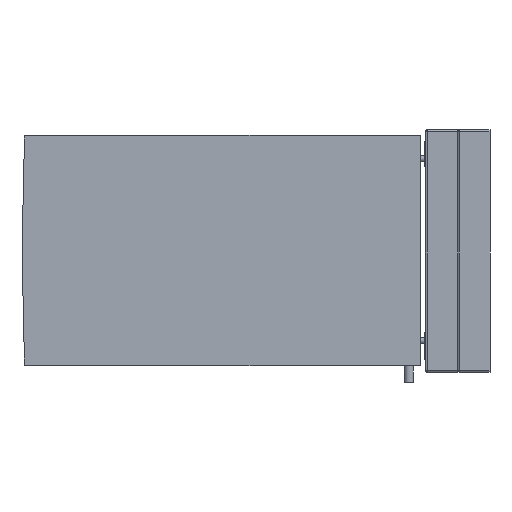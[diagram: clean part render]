
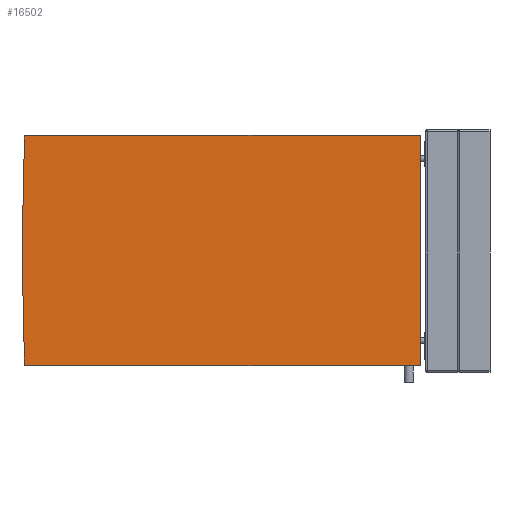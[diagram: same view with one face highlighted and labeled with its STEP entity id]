
A CAD part, left-side view. The second image highlights one B-rep face of the part: STEP entity #16502.
In plain terms, the highlighted planar face has unit normal (-1, 0, 0).
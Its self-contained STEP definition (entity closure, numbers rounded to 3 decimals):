
#388 = VERTEX_POINT ( 'NONE', #5014 ) ;
#630 = EDGE_CURVE ( 'NONE', #2542, #6149, #23395, .T. ) ;
#1161 = CARTESIAN_POINT ( 'NONE',  ( -575., 1225., 354.642 ) ) ;
#1855 = DIRECTION ( 'NONE',  ( 1., 0., 0. ) ) ;
#2100 = VERTEX_POINT ( 'NONE', #21401 ) ;
#2110 = DIRECTION ( 'NONE',  ( 0., 0., 1. ) ) ;
#2542 = VERTEX_POINT ( 'NONE', #3109 ) ;
#3109 = CARTESIAN_POINT ( 'NONE',  ( -575., 2., 357.5 ) ) ;
#3222 = ORIENTED_EDGE ( 'NONE', *, *, #23396, .F. ) ;
#4051 = CARTESIAN_POINT ( 'NONE',  ( -575., 1222.101, -354.578 ) ) ;
#4186 = ORIENTED_EDGE ( 'NONE', *, *, #16775, .F. ) ;
#4388 = ORIENTED_EDGE ( 'NONE', *, *, #21826, .F. ) ;
#4405 = VECTOR ( 'NONE', #12053, 1000. ) ;
#4421 = VERTEX_POINT ( 'NONE', #9675 ) ;
#5014 = CARTESIAN_POINT ( 'NONE',  ( -575., 1222.101, -357.478 ) ) ;
#5181 = DIRECTION ( 'NONE',  ( -1., 0., 0. ) ) ;
#5242 = CIRCLE ( 'NONE', #21650, 2.9 ) ;
#5437 = EDGE_CURVE ( 'NONE', #23100, #20217, #21280, .T. ) ;
#5476 = PLANE ( 'NONE',  #18090 ) ;
#6149 = VERTEX_POINT ( 'NONE', #10757 ) ;
#6822 = DIRECTION ( 'NONE',  ( 0., 0., 1. ) ) ;
#6911 = LINE ( 'NONE', #17807, #8693 ) ;
#7659 = FACE_OUTER_BOUND ( 'NONE', #28041, .T. ) ;
#7933 = DIRECTION ( 'NONE',  ( 0., -0.022, 1. ) ) ;
#8187 = CARTESIAN_POINT ( 'NONE',  ( -575., 1222.101, 357.478 ) ) ;
#8590 = EDGE_CURVE ( 'NONE', #2100, #11295, #11699, .T. ) ;
#8605 = DIRECTION ( 'NONE',  ( 1., 0., 0. ) ) ;
#8693 = VECTOR ( 'NONE', #26439, 1000. ) ;
#8848 = CARTESIAN_POINT ( 'NONE',  ( -575., 1225., -354.642 ) ) ;
#9071 = ORIENTED_EDGE ( 'NONE', *, *, #630, .F. ) ;
#9601 = DIRECTION ( 'NONE',  ( 0., 0., 1. ) ) ;
#9675 = CARTESIAN_POINT ( 'NONE',  ( -575., 1222.101, 357.478 ) ) ;
#10407 = DIRECTION ( 'NONE',  ( 0., 0., 1. ) ) ;
#10568 = EDGE_CURVE ( 'NONE', #20217, #4421, #5242, .T. ) ;
#10757 = CARTESIAN_POINT ( 'NONE',  ( -575., 0., 355.5 ) ) ;
#10802 = DIRECTION ( 'NONE',  ( 1., 0., 0. ) ) ;
#11142 = CARTESIAN_POINT ( 'NONE',  ( -575., 1222.101, 354.578 ) ) ;
#11295 = VERTEX_POINT ( 'NONE', #18873 ) ;
#11699 = CIRCLE ( 'NONE', #21958, 2. ) ;
#11925 = EDGE_CURVE ( 'NONE', #388, #28431, #15942, .T. ) ;
#12053 = DIRECTION ( 'NONE',  ( 0., 1., 0. ) ) ;
#12840 = CARTESIAN_POINT ( 'NONE',  ( -575., 2., 355.5 ) ) ;
#13239 = ORIENTED_EDGE ( 'NONE', *, *, #10568, .F. ) ;
#13607 = CARTESIAN_POINT ( 'NONE',  ( -575., 2., -355.5 ) ) ;
#15942 = CIRCLE ( 'NONE', #19649, 2.9 ) ;
#16251 = CARTESIAN_POINT ( 'NONE',  ( -575., 1232.738, 0. ) ) ;
#16502 = ADVANCED_FACE ( 'NONE', ( #7659 ), #5476, .T. ) ;
#16775 = EDGE_CURVE ( 'NONE', #28431, #23100, #6911, .T. ) ;
#16999 = ORIENTED_EDGE ( 'NONE', *, *, #8590, .F. ) ;
#17021 = ORIENTED_EDGE ( 'NONE', *, *, #11925, .F. ) ;
#17807 = CARTESIAN_POINT ( 'NONE',  ( -575., 1232.738, 0. ) ) ;
#18090 = AXIS2_PLACEMENT_3D ( 'NONE', #18710, #5181, #9601 ) ;
#18600 = VECTOR ( 'NONE', #18924, 1000. ) ;
#18710 = CARTESIAN_POINT ( 'NONE',  ( -575., 0., 0. ) ) ;
#18873 = CARTESIAN_POINT ( 'NONE',  ( -575., 2., -357.5 ) ) ;
#18924 = DIRECTION ( 'NONE',  ( 0., -1., 0. ) ) ;
#19649 = AXIS2_PLACEMENT_3D ( 'NONE', #4051, #28437, #10407 ) ;
#19766 = DIRECTION ( 'NONE',  ( 0., 0., 1. ) ) ;
#20217 = VERTEX_POINT ( 'NONE', #25445 ) ;
#20444 = DIRECTION ( 'NONE',  ( 0., 0., -1. ) ) ;
#20522 = EDGE_CURVE ( 'NONE', #6149, #2100, #24844, .T. ) ;
#20686 = LINE ( 'NONE', #25510, #4405 ) ;
#21280 = LINE ( 'NONE', #1161, #23354 ) ;
#21290 = ORIENTED_EDGE ( 'NONE', *, *, #20522, .F. ) ;
#21401 = CARTESIAN_POINT ( 'NONE',  ( -575., 0., -355.5 ) ) ;
#21650 = AXIS2_PLACEMENT_3D ( 'NONE', #11142, #1855, #19766 ) ;
#21826 = EDGE_CURVE ( 'NONE', #4421, #2542, #23880, .T. ) ;
#21958 = AXIS2_PLACEMENT_3D ( 'NONE', #13607, #8605, #6822 ) ;
#23100 = VERTEX_POINT ( 'NONE', #16251 ) ;
#23235 = ORIENTED_EDGE ( 'NONE', *, *, #5437, .F. ) ;
#23354 = VECTOR ( 'NONE', #7933, 1000. ) ;
#23395 = CIRCLE ( 'NONE', #24840, 2. ) ;
#23396 = EDGE_CURVE ( 'NONE', #11295, #388, #20686, .T. ) ;
#23880 = LINE ( 'NONE', #8187, #18600 ) ;
#24840 = AXIS2_PLACEMENT_3D ( 'NONE', #12840, #10802, #2110 ) ;
#24844 = LINE ( 'NONE', #25123, #26930 ) ;
#25123 = CARTESIAN_POINT ( 'NONE',  ( -575., 0., -355.5 ) ) ;
#25445 = CARTESIAN_POINT ( 'NONE',  ( -575., 1225., 354.642 ) ) ;
#25510 = CARTESIAN_POINT ( 'NONE',  ( -575., 1222.101, -357.478 ) ) ;
#26439 = DIRECTION ( 'NONE',  ( 0., 0.022, 1. ) ) ;
#26930 = VECTOR ( 'NONE', #20444, 1000. ) ;
#28041 = EDGE_LOOP ( 'NONE', ( #9071, #4388, #13239, #23235, #4186, #17021, #3222, #16999, #21290 ) ) ;
#28431 = VERTEX_POINT ( 'NONE', #8848 ) ;
#28437 = DIRECTION ( 'NONE',  ( 1., 0., 0. ) ) ;
